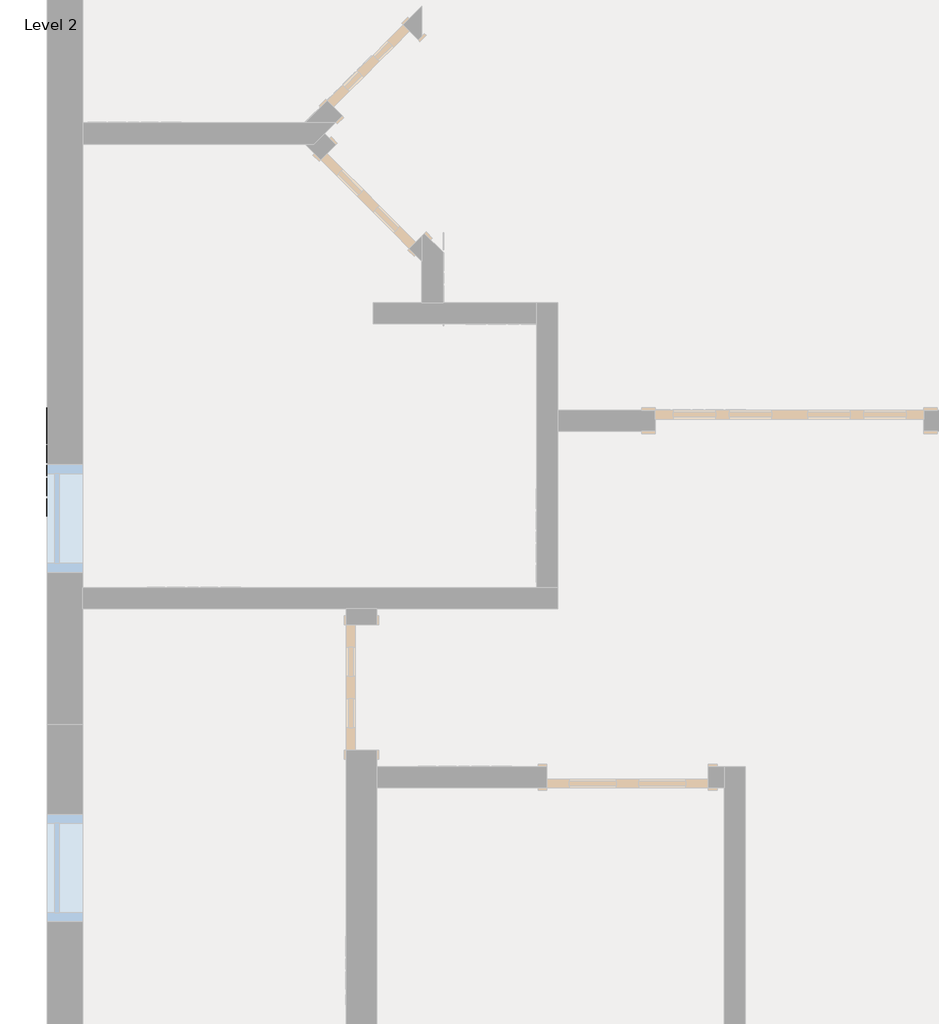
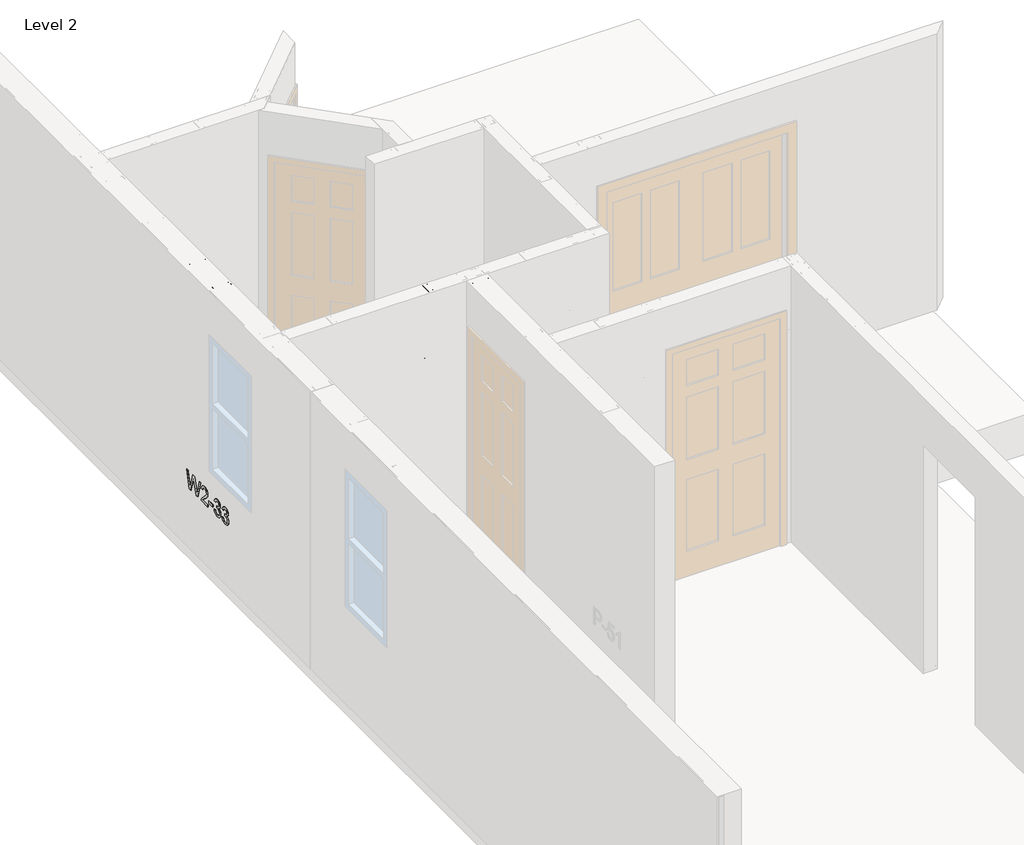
# One storey, part 25 of 46: 6 columns, 3 beams, 1 fastener.
"""IFC4 building model written with IfcOpenShell, lengths in millimetres."""

from ifc_helpers import new_model, si_unit, point, frame, origin, place, context, project, spatial, circle_curve, ellipse_curve, trimmed, transform, mapped, element, save
from ifc_brep_helpers import plane_surface, extruded_surface, advanced_brep
from components import beam_350nf150_33_c7d518e1, beam_550nf150_33_23c28c1d, beam_550nf150_43_6e52a138, panellabel_b0f0797e

model = new_model("IFC4")

# Units and contexts
model_context = context("Model", 3, world=origin())
ifc_project = project(units=[si_unit("LENGTHUNIT", "METRE", prefix="MILLI")], contexts=[model_context])

# Site, building, storey
site = spatial("IfcSite", under=ifc_project)
building = spatial("IfcBuilding", under=site)
storey = spatial("IfcBuildingStorey", under=building, Name="Level 2", Elevation=3060.7)

# Beams
placement = place(None, origin())
beam_350nf150_33_shape = beam_350nf150_33_c7d518e1(model_context)
element("IfcBeam", 1, ObjectType="BIMSF-SSMA-S : 350NF150-33", at=placement, inside=storey, context=model_context, shape_type="MappedRepresentation", body=[
    mapped(beam_350nf150_33_shape, transform((-13820.9038349, 8626.602221, 3076.575), x_axis=(1.0000000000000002, 0.0, 0.0), y_axis=(0.0, 0.0, -1.0000000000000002), z_axis=(0.0, 1.0000000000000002, 0.0))),
])
beam_550nf150_33_shape = beam_550nf150_33_23c28c1d(model_context)
element("IfcBeam", 2, ObjectType="BIMSF-SSMA-S : 550NF150-33", at=placement, inside=storey, context=model_context, shape_type="MappedRepresentation", body=[
    mapped(beam_550nf150_33_shape, transform((-13527.2163349, 8528.970971, 3076.575), x_axis=(0.0, 1.0000000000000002, 0.0), y_axis=(0.0, 0.0, -1.0000000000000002), z_axis=(-1.0000000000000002, 0.0, 0.0))),
])
beam_550nf150_43_shape = beam_550nf150_43_6e52a138(model_context)
element("IfcBeam", 3, ObjectType="BIMSF-SSMA-S : 550NF150-43", at=placement, inside=storey, context=model_context, shape_type="MappedRepresentation", body=[
    mapped(beam_550nf150_43_shape, transform((-15194.0913349, 9077.6062273, 3905.25), x_axis=(0.0, 1.0, 0.0), y_axis=(0.0, 0.0, 1.0), z_axis=(1.0, 0.0, 0.0))),
])

# Columns
element("IfcColumn", 4, ObjectType="BIMSF-SSMA-S-Column : 350NF150-33", at=placement, inside=storey, context=model_context, shape_type="AdvancedBrep", body=[
    advanced_brep(
    [(-13924.0913349, 8582.152221, 3061.5929687), (-13924.0913349, 8671.052221, 3061.5929687), (-13885.9913349, 8671.052221, 3061.5929687), (-13885.9913349, 8665.3947052, 3061.5929687), (-13886.8736507, 8665.3947052, 3061.5929687), (-13886.8736507, 8670.1699052, 3061.5929687), (-13923.2090191, 8670.1699052, 3061.5929687), (-13923.2090191, 8583.0345367, 3061.5929687), (-13886.8736507, 8583.0345367, 3061.5929687), (-13886.8736507, 8587.8097367, 3061.5929687), (-13885.9913349, 8587.8097367, 3061.5929687), (-13885.9913349, 8582.152221, 3061.5929687), (-13924.0913349, 8582.152221, 5523.6070313), (-13924.0913349, 8671.052221, 5523.6070313), (-13924.0913349, 8639.302221, 3671.1929688), (-13924.0913349, 8613.902221, 3671.1929688), (-13924.0913349, 8639.302221, 4890.3929687), (-13924.0913349, 8613.902221, 4890.3929687), (-13885.9913349, 8671.052221, 5523.6070313), (-13885.9913349, 8665.3947052, 5523.6070313), (-13886.8736507, 8665.3947052, 5523.6070313), (-13886.8736507, 8670.1699052, 5523.6070313), (-13923.2090191, 8670.1699052, 5523.6070313), (-13923.2090191, 8583.0345367, 5523.6070313), (-13923.2090191, 8613.902221, 3671.1929688), (-13923.2090191, 8639.302221, 3671.1929688), (-13923.2090191, 8613.902221, 4890.3929687), (-13923.2090191, 8639.302221, 4890.3929687), (-13886.8736507, 8583.0345367, 5523.6070313), (-13886.8736507, 8587.8097367, 5523.6070313), (-13885.9913349, 8587.8097367, 5523.6070313), (-13885.9913349, 8582.152221, 5523.6070313)],
    [
        (0, 1),
        (1, 2),
        (2, 3),
        (3, 4),
        (4, 5),
        (5, 6),
        (6, 7),
        (7, 8),
        (8, 9),
        (9, 10),
        (10, 11),
        (11, 0),
        (0, 12),
        (12, 13),
        (13, 1),
        (14, 15, circle_curve(frame((-13924.0913349, 8626.602221, 3671.1929687), z_axis=(1.0, 0.0, 0.0), x_axis=(0.0, 1.0, 0.0)), 12.7)),
        (15, 14, circle_curve(frame((-13924.0913349, 8626.602221, 3671.1929687), z_axis=(1.0, 0.0, 0.0), x_axis=(0.0, 1.0, 0.0)), 12.7)),
        (16, 17, circle_curve(frame((-13924.0913349, 8626.602221, 4890.3929687), z_axis=(1.0, 0.0, 0.0), x_axis=(0.0, 1.0, 0.0)), 12.7)),
        (17, 16, circle_curve(frame((-13924.0913349, 8626.602221, 4890.3929687), z_axis=(1.0, 0.0, 0.0), x_axis=(0.0, 1.0, 0.0)), 12.7)),
        (13, 18),
        (18, 2),
        (18, 19),
        (19, 3),
        (19, 20),
        (20, 4),
        (20, 21),
        (21, 5),
        (21, 22),
        (22, 6),
        (22, 23),
        (23, 7),
        (24, 25, circle_curve(frame((-13923.2090191, 8626.602221, 3671.1929688), z_axis=(-1.0, 0.0, 0.0), x_axis=(0.0, 1.0, 0.0)), 12.7)),
        (25, 24, circle_curve(frame((-13923.2090191, 8626.602221, 3671.1929688), z_axis=(-1.0, 0.0, 0.0), x_axis=(0.0, 1.0, 0.0)), 12.7)),
        (26, 27, circle_curve(frame((-13923.2090191, 8626.602221, 4890.3929687), z_axis=(-1.0, 0.0, 0.0), x_axis=(0.0, 1.0, 0.0)), 12.7)),
        (27, 26, circle_curve(frame((-13923.2090191, 8626.602221, 4890.3929687), z_axis=(-1.0, 0.0, 0.0), x_axis=(0.0, 1.0, 0.0)), 12.7)),
        (23, 28),
        (28, 8),
        (28, 29),
        (29, 9),
        (29, 30),
        (30, 10),
        (30, 31),
        (31, 11),
        (31, 12),
        (24, 15),
        (14, 25),
        (26, 17),
        (16, 27),
    ],
    [
        plane_surface(frame((-13924.0913349, 8582.152221, 3061.5929687), z_axis=(0.0, 0.0, -1.0), x_axis=(-1.0, 0.0, 0.0))),
        plane_surface(frame((-13924.0913349, 8671.052221, 5523.6070313), z_axis=(-1.0, 0.0, 0.0), x_axis=(0.0, 0.0, -1.0))),
        plane_surface(frame((-13885.9913349, 8671.052221, 5523.6070313), z_axis=(0.0, 1.0, 0.0), x_axis=(0.0, 0.0, -1.0))),
        plane_surface(frame((-13885.9913349, 8665.3947052, 5523.6070313), z_axis=(1.0, 0.0, 0.0), x_axis=(0.0, 0.0, -1.0))),
        plane_surface(frame((-13886.8736507, 8665.3947052, 5523.6070313), z_axis=(0.0, -1.0, 0.0), x_axis=(0.0, 0.0, -1.0))),
        plane_surface(frame((-13886.8736507, 8670.1699052, 5523.6070313), z_axis=(-1.0, 0.0, 0.0), x_axis=(0.0, 0.0, -1.0))),
        plane_surface(frame((-13923.2090191, 8670.1699052, 5523.6070313), z_axis=(0.0, -1.0, 0.0), x_axis=(0.0, 0.0, -1.0))),
        plane_surface(frame((-13923.2090191, 8583.0345367, 5523.6070313), z_axis=(1.0, 0.0, 0.0), x_axis=(0.0, 0.0, -1.0))),
        plane_surface(frame((-13886.8736507, 8583.0345367, 5523.6070313), z_axis=(0.0, 1.0, 0.0), x_axis=(0.0, 0.0, -1.0))),
        plane_surface(frame((-13886.8736507, 8587.8097367, 5523.6070313), z_axis=(-1.0, 0.0, 0.0), x_axis=(0.0, 0.0, -1.0))),
        plane_surface(frame((-13885.9913349, 8587.8097367, 5523.6070313), z_axis=(0.0, 1.0, 0.0), x_axis=(0.0, 0.0, -1.0))),
        plane_surface(frame((-13885.9913349, 8582.152221, 5523.6070313), z_axis=(1.0, 0.0, 0.0), x_axis=(0.0, 0.0, -1.0))),
        plane_surface(frame((-13924.0913349, 8582.152221, 5523.6070313), z_axis=(0.0, -1.0, 0.0), x_axis=(0.0, 0.0, -1.0))),
        plane_surface(frame((-13924.0913349, 8582.152221, 5523.6070313), z_axis=(0.0, 0.0, 1.0), x_axis=(1.0, 0.0, 0.0))),
        extruded_surface(trimmed(ellipse_curve(frame((-11443.0272724, 8626.602221, 3671.1929688), z_axis=(-1.0, 0.0, 0.0), x_axis=(0.0, 1.0, 0.0)), 12.7, 12.7), [point((-11443.0272724, 8613.902221, 3671.1929688))], [point((-11443.0272724, 8639.302221, 3671.1929688))], True, "CARTESIAN"), (4924.028125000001, 0.0, 0.0), 4924.028125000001),
        extruded_surface(trimmed(ellipse_curve(frame((-11443.0272724, 8626.602221, 3671.1929688), z_axis=(-1.0, 0.0, 0.0), x_axis=(0.0, 1.0, 0.0)), 12.7, 12.7), [point((-11443.0272724, 8639.302221, 3671.1929688))], [point((-11443.0272724, 8613.902221, 3671.1929688))], True, "CARTESIAN"), (4924.028125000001, 0.0, 0.0), 4924.028125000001),
        extruded_surface(trimmed(ellipse_curve(frame((-11443.0272724, 8626.602221, 4890.3929687), z_axis=(-1.0, 0.0, 0.0), x_axis=(0.0, 1.0, 0.0)), 12.7, 12.7), [point((-11443.0272724, 8613.902221, 4890.3929687))], [point((-11443.0272724, 8639.302221, 4890.3929687))], True, "CARTESIAN"), (4924.028125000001, 0.0, 0.0), 4924.028125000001),
        extruded_surface(trimmed(ellipse_curve(frame((-11443.0272724, 8626.602221, 4890.3929687), z_axis=(-1.0, 0.0, 0.0), x_axis=(0.0, 1.0, 0.0)), 12.7, 12.7), [point((-11443.0272724, 8639.302221, 4890.3929687))], [point((-11443.0272724, 8613.902221, 4890.3929687))], True, "CARTESIAN"), (4924.028125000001, 0.0, 0.0), 4924.028125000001),
    ],
    [
        (0, [[1, 2, 3, 4, 5, 6, 7, 8, 9, 10, 11, 12]]),
        (1, [[-1, 13, 14, 15], [16, 17], [18, 19]]),
        (2, [[-2, -15, 20, 21]]),
        (3, [[-3, -21, 22, 23]]),
        (4, [[-4, -23, 24, 25]]),
        (5, [[-5, -25, 26, 27]]),
        (6, [[-6, -27, 28, 29]]),
        (7, [[-7, -29, 30, 31], [32, 33], [34, 35]]),
        (8, [[-8, -31, 36, 37]]),
        (9, [[-9, -37, 38, 39]]),
        (10, [[-10, -39, 40, 41]]),
        (11, [[-11, -41, 42, 43]]),
        (12, [[-12, -43, 44, -13]]),
        (13, [[-14, -44, -42, -40, -38, -36, -30, -28, -26, -24, -22, -20]]),
        (14, [[45, -16, 46, -32]]),
        (15, [[-45, -33, -46, -17]]),
        (16, [[47, -18, 48, -34]]),
        (17, [[-47, -35, -48, -19]]),
    ],
),
])
element("IfcColumn", 5, ObjectType="BIMSF-SSMA-S-Column : 550NF150-33", at=placement, inside=storey, context=model_context, shape_type="AdvancedBrep", body=[
    advanced_brep(
    [(-13457.3663349, 8475.789721, 3061.5929687), (-13597.0663349, 8475.789721, 3061.5929687), (-13597.0663349, 8513.889721, 3061.5929687), (-13591.4088191, 8513.889721, 3061.5929687), (-13591.4088191, 8513.0074052, 3061.5929687), (-13596.1840191, 8513.0074052, 3061.5929687), (-13596.1840191, 8476.6720367, 3061.5929687), (-13458.2486507, 8476.6720367, 3061.5929687), (-13458.2486507, 8513.0074052, 3061.5929687), (-13463.0238507, 8513.0074052, 3061.5929687), (-13463.0238507, 8513.889721, 3061.5929687), (-13457.3663349, 8513.889721, 3061.5929687), (-13457.3663349, 8475.789721, 5523.6070313), (-13597.0663349, 8475.789721, 5523.6070313), (-13539.9163349, 8475.789721, 3671.1929688), (-13514.5163349, 8475.789721, 3671.1929687), (-13539.9163349, 8475.789721, 4890.3929688), (-13514.5163349, 8475.789721, 4890.3929687), (-13597.0663349, 8513.889721, 5523.6070313), (-13591.4088191, 8513.889721, 5523.6070313), (-13591.4088191, 8513.0074052, 5523.6070313), (-13596.1840191, 8513.0074052, 5523.6070313), (-13596.1840191, 8476.6720367, 5523.6070313), (-13458.2486507, 8476.6720367, 5523.6070313), (-13514.5163349, 8476.6720367, 3671.1929687), (-13539.9163349, 8476.6720367, 3671.1929688), (-13514.5163349, 8476.6720367, 4890.3929688), (-13539.9163349, 8476.6720367, 4890.3929688), (-13458.2486507, 8513.0074052, 5523.6070313), (-13463.0238507, 8513.0074052, 5523.6070313), (-13463.0238507, 8513.889721, 5523.6070313), (-13457.3663349, 8513.889721, 5523.6070313)],
    [
        (0, 1),
        (1, 2),
        (2, 3),
        (3, 4),
        (4, 5),
        (5, 6),
        (6, 7),
        (7, 8),
        (8, 9),
        (9, 10),
        (10, 11),
        (11, 0),
        (0, 12),
        (12, 13),
        (13, 1),
        (14, 15, circle_curve(frame((-13527.2163349, 8475.789721, 3671.1929687), z_axis=(0.0, 1.0, 0.0), x_axis=(-1.0, 0.0, 0.0)), 12.7)),
        (15, 14, circle_curve(frame((-13527.2163349, 8475.789721, 3671.1929688), z_axis=(0.0, 1.0, 0.0), x_axis=(-1.0, 0.0, 0.0)), 12.7)),
        (16, 17, circle_curve(frame((-13527.2163349, 8475.789721, 4890.3929687), z_axis=(0.0, 1.0, 0.0), x_axis=(-1.0, 0.0, 0.0)), 12.7)),
        (17, 16, circle_curve(frame((-13527.2163349, 8475.789721, 4890.3929687), z_axis=(0.0, 1.0, 0.0), x_axis=(-1.0, 0.0, 0.0)), 12.7)),
        (13, 18),
        (18, 2),
        (18, 19),
        (19, 3),
        (19, 20),
        (20, 4),
        (20, 21),
        (21, 5),
        (21, 22),
        (22, 6),
        (22, 23),
        (23, 7),
        (24, 25, circle_curve(frame((-13527.2163349, 8476.6720367, 3671.1929687), z_axis=(0.0, -1.0, 0.0), x_axis=(-1.0, 0.0, 0.0)), 12.7)),
        (25, 24, circle_curve(frame((-13527.2163349, 8476.6720367, 3671.1929688), z_axis=(0.0, -1.0, 0.0), x_axis=(-1.0, 0.0, 0.0)), 12.7)),
        (26, 27, circle_curve(frame((-13527.2163349, 8476.6720367, 4890.3929687), z_axis=(0.0, -1.0, 0.0), x_axis=(-1.0, 0.0, 0.0)), 12.7)),
        (27, 26, circle_curve(frame((-13527.2163349, 8476.6720367, 4890.3929687), z_axis=(0.0, -1.0, 0.0), x_axis=(-1.0, 0.0, 0.0)), 12.7)),
        (23, 28),
        (28, 8),
        (28, 29),
        (29, 9),
        (29, 30),
        (30, 10),
        (30, 31),
        (31, 11),
        (31, 12),
        (24, 15),
        (14, 25),
        (26, 17),
        (16, 27),
    ],
    [
        plane_surface(frame((-13457.3663349, 8475.789721, 3061.5929687), z_axis=(0.0, 0.0, -1.0), x_axis=(0.0, -1.0, 0.0))),
        plane_surface(frame((-13597.0663349, 8475.789721, 5523.6070313), z_axis=(0.0, -1.0, 0.0), x_axis=(0.0, 0.0, -1.0))),
        plane_surface(frame((-13597.0663349, 8513.889721, 5523.6070313), z_axis=(-1.0, 0.0, 0.0), x_axis=(0.0, 0.0, -1.0))),
        plane_surface(frame((-13591.4088191, 8513.889721, 5523.6070313), z_axis=(0.0, 1.0, 0.0), x_axis=(0.0, 0.0, -1.0))),
        plane_surface(frame((-13591.4088191, 8513.0074052, 5523.6070313), z_axis=(1.0, 0.0, 0.0), x_axis=(0.0, 0.0, -1.0))),
        plane_surface(frame((-13596.1840191, 8513.0074052, 5523.6070313), z_axis=(0.0, -1.0, 0.0), x_axis=(0.0, 0.0, -1.0))),
        plane_surface(frame((-13596.1840191, 8476.6720367, 5523.6070313), z_axis=(1.0, 0.0, 0.0), x_axis=(0.0, 0.0, -1.0))),
        plane_surface(frame((-13458.2486507, 8476.6720367, 5523.6070313), z_axis=(0.0, 1.0, 0.0), x_axis=(0.0, 0.0, -1.0))),
        plane_surface(frame((-13458.2486507, 8513.0074052, 5523.6070313), z_axis=(-1.0, 0.0, 0.0), x_axis=(0.0, 0.0, -1.0))),
        plane_surface(frame((-13463.0238507, 8513.0074052, 5523.6070313), z_axis=(0.0, -1.0, 0.0), x_axis=(0.0, 0.0, -1.0))),
        plane_surface(frame((-13463.0238507, 8513.889721, 5523.6070313), z_axis=(-1.0, 0.0, 0.0), x_axis=(0.0, 0.0, -1.0))),
        plane_surface(frame((-13457.3663349, 8513.889721, 5523.6070313), z_axis=(0.0, 1.0, 0.0), x_axis=(0.0, 0.0, -1.0))),
        plane_surface(frame((-13457.3663349, 8475.789721, 5523.6070313), z_axis=(1.0, 0.0, 0.0), x_axis=(0.0, 0.0, -1.0))),
        plane_surface(frame((-13457.3663349, 8475.789721, 5523.6070313), z_axis=(0.0, 0.0, 1.0), x_axis=(0.0, 1.0, 0.0))),
        extruded_surface(trimmed(ellipse_curve(frame((-13527.2163349, 10956.8537835, 3671.1929688), z_axis=(0.0, -1.0, 0.0), x_axis=(-1.0, 0.0, 0.0)), 12.7, 12.7), [point((-13514.5163349, 10956.8537835, 3671.1929688))], [point((-13539.9163349, 10956.8537835, 3671.1929688))], True, "CARTESIAN"), (0.0, 4924.028124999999, 0.0), 4924.028124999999),
        extruded_surface(trimmed(ellipse_curve(frame((-13527.2163349, 10956.8537835, 3671.1929688), z_axis=(0.0, -1.0, 0.0), x_axis=(-1.0, 0.0, 0.0)), 12.7, 12.7), [point((-13539.9163349, 10956.8537835, 3671.1929688))], [point((-13514.5163349, 10956.8537835, 3671.1929688))], True, "CARTESIAN"), (0.0, 4924.028124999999, 0.0), 4924.028124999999),
        extruded_surface(trimmed(ellipse_curve(frame((-13527.2163349, 10956.8537835, 4890.3929687), z_axis=(0.0, -1.0, 0.0), x_axis=(-1.0, 0.0, 0.0)), 12.7, 12.7), [point((-13514.5163349, 10956.8537835, 4890.3929687))], [point((-13539.9163349, 10956.8537835, 4890.3929687))], True, "CARTESIAN"), (0.0, 4924.028124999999, 0.0), 4924.028124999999),
        extruded_surface(trimmed(ellipse_curve(frame((-13527.2163349, 10956.8537835, 4890.3929687), z_axis=(0.0, -1.0, 0.0), x_axis=(-1.0, 0.0, 0.0)), 12.7, 12.7), [point((-13539.9163349, 10956.8537835, 4890.3929687))], [point((-13514.5163349, 10956.8537835, 4890.3929687))], True, "CARTESIAN"), (0.0, 4924.028124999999, 0.0), 4924.028124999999),
    ],
    [
        (0, [[1, 2, 3, 4, 5, 6, 7, 8, 9, 10, 11, 12]]),
        (1, [[-1, 13, 14, 15], [16, 17], [18, 19]]),
        (2, [[-2, -15, 20, 21]]),
        (3, [[-3, -21, 22, 23]]),
        (4, [[-4, -23, 24, 25]]),
        (5, [[-5, -25, 26, 27]]),
        (6, [[-6, -27, 28, 29]]),
        (7, [[-7, -29, 30, 31], [32, 33], [34, 35]]),
        (8, [[-8, -31, 36, 37]]),
        (9, [[-9, -37, 38, 39]]),
        (10, [[-10, -39, 40, 41]]),
        (11, [[-11, -41, 42, 43]]),
        (12, [[-12, -43, 44, -13]]),
        (13, [[-14, -44, -42, -40, -38, -36, -30, -28, -26, -24, -22, -20]]),
        (14, [[45, -16, 46, -32]]),
        (15, [[-45, -33, -46, -17]]),
        (16, [[47, -18, 48, -34]]),
        (17, [[-47, -35, -48, -19]]),
    ],
),
])
element("IfcColumn", 6, ObjectType="BIMSF-SSMA-S-Column : 550NF150-33", at=placement, inside=storey, context=model_context, shape_type="AdvancedBrep", body=[
    advanced_brep(
    [(-13597.0663349, 8582.152221, 3061.5929687), (-13457.3663349, 8582.152221, 3061.5929687), (-13457.3663349, 8544.052221, 3061.5929687), (-13463.0238507, 8544.052221, 3061.5929687), (-13463.0238507, 8544.9345367, 3061.5929687), (-13458.2486507, 8544.9345367, 3061.5929687), (-13458.2486507, 8581.2699052, 3061.5929687), (-13596.1840191, 8581.2699052, 3061.5929687), (-13596.1840191, 8544.9345367, 3061.5929687), (-13591.4088191, 8544.9345367, 3061.5929687), (-13591.4088191, 8544.052221, 3061.5929687), (-13597.0663349, 8544.052221, 3061.5929687), (-13597.0663349, 8582.152221, 5523.6070313), (-13457.3663349, 8582.152221, 5523.6070313), (-13514.5163349, 8582.152221, 3671.1929687), (-13539.9163349, 8582.152221, 3671.1929687), (-13514.5163349, 8582.152221, 4890.3929687), (-13539.9163349, 8582.152221, 4890.3929687), (-13457.3663349, 8544.052221, 5523.6070313), (-13463.0238507, 8544.052221, 5523.6070313), (-13463.0238507, 8544.9345367, 5523.6070313), (-13458.2486507, 8544.9345367, 5523.6070313), (-13458.2486507, 8581.2699052, 5523.6070313), (-13596.1840191, 8581.2699052, 5523.6070313), (-13539.9163349, 8581.2699052, 3671.1929688), (-13514.5163349, 8581.2699052, 3671.1929688), (-13539.9163349, 8581.2699052, 4890.3929687), (-13514.5163349, 8581.2699052, 4890.3929687), (-13596.1840191, 8544.9345367, 5523.6070313), (-13591.4088191, 8544.9345367, 5523.6070313), (-13591.4088191, 8544.052221, 5523.6070313), (-13597.0663349, 8544.052221, 5523.6070313)],
    [
        (0, 1),
        (1, 2),
        (2, 3),
        (3, 4),
        (4, 5),
        (5, 6),
        (6, 7),
        (7, 8),
        (8, 9),
        (9, 10),
        (10, 11),
        (11, 0),
        (0, 12),
        (12, 13),
        (13, 1),
        (14, 15, circle_curve(frame((-13527.2163349, 8582.152221, 3671.1929688), z_axis=(0.0, -1.0, 0.0), x_axis=(1.0, 0.0, 0.0)), 12.7)),
        (15, 14, circle_curve(frame((-13527.2163349, 8582.152221, 3671.1929688), z_axis=(0.0, -1.0, 0.0), x_axis=(1.0, 0.0, 0.0)), 12.7)),
        (16, 17, circle_curve(frame((-13527.2163349, 8582.152221, 4890.3929687), z_axis=(0.0, -1.0, 0.0), x_axis=(1.0, 0.0, 0.0)), 12.7)),
        (17, 16, circle_curve(frame((-13527.2163349, 8582.152221, 4890.3929687), z_axis=(0.0, -1.0, 0.0), x_axis=(1.0, 0.0, 0.0)), 12.7)),
        (13, 18),
        (18, 2),
        (18, 19),
        (19, 3),
        (19, 20),
        (20, 4),
        (20, 21),
        (21, 5),
        (21, 22),
        (22, 6),
        (22, 23),
        (23, 7),
        (24, 25, circle_curve(frame((-13527.2163349, 8581.2699052, 3671.1929687), z_axis=(0.0, 1.0, 0.0), x_axis=(1.0, 0.0, 0.0)), 12.7)),
        (25, 24, circle_curve(frame((-13527.2163349, 8581.2699052, 3671.1929687), z_axis=(0.0, 1.0, 0.0), x_axis=(1.0, 0.0, 0.0)), 12.7)),
        (26, 27, circle_curve(frame((-13527.2163349, 8581.2699052, 4890.3929687), z_axis=(0.0, 1.0, 0.0), x_axis=(1.0, 0.0, 0.0)), 12.7)),
        (27, 26, circle_curve(frame((-13527.2163349, 8581.2699052, 4890.3929687), z_axis=(0.0, 1.0, 0.0), x_axis=(1.0, 0.0, 0.0)), 12.7)),
        (23, 28),
        (28, 8),
        (28, 29),
        (29, 9),
        (29, 30),
        (30, 10),
        (30, 31),
        (31, 11),
        (31, 12),
        (24, 15),
        (14, 25),
        (26, 17),
        (16, 27),
    ],
    [
        plane_surface(frame((-13597.0663349, 8582.152221, 3061.5929687), z_axis=(0.0, 0.0, -1.0), x_axis=(0.0, 1.0, 0.0))),
        plane_surface(frame((-13457.3663349, 8582.152221, 5523.6070313), z_axis=(0.0, 1.0, 0.0), x_axis=(0.0, 0.0, -1.0))),
        plane_surface(frame((-13457.3663349, 8544.052221, 5523.6070313), z_axis=(1.0, 0.0, 0.0), x_axis=(0.0, 0.0, -1.0))),
        plane_surface(frame((-13463.0238507, 8544.052221, 5523.6070313), z_axis=(0.0, -1.0, 0.0), x_axis=(0.0, 0.0, -1.0))),
        plane_surface(frame((-13463.0238507, 8544.9345367, 5523.6070313), z_axis=(-1.0, 0.0, 0.0), x_axis=(0.0, 0.0, -1.0))),
        plane_surface(frame((-13458.2486507, 8544.9345367, 5523.6070313), z_axis=(0.0, 1.0, 0.0), x_axis=(0.0, 0.0, -1.0))),
        plane_surface(frame((-13458.2486507, 8581.2699052, 5523.6070313), z_axis=(-1.0, 0.0, 0.0), x_axis=(0.0, 0.0, -1.0))),
        plane_surface(frame((-13596.1840191, 8581.2699052, 5523.6070313), z_axis=(0.0, -1.0, 0.0), x_axis=(0.0, 0.0, -1.0))),
        plane_surface(frame((-13596.1840191, 8544.9345367, 5523.6070313), z_axis=(1.0, 0.0, 0.0), x_axis=(0.0, 0.0, -1.0))),
        plane_surface(frame((-13591.4088191, 8544.9345367, 5523.6070313), z_axis=(0.0, 1.0, 0.0), x_axis=(0.0, 0.0, -1.0))),
        plane_surface(frame((-13591.4088191, 8544.052221, 5523.6070313), z_axis=(1.0, 0.0, 0.0), x_axis=(0.0, 0.0, -1.0))),
        plane_surface(frame((-13597.0663349, 8544.052221, 5523.6070313), z_axis=(0.0, -1.0, 0.0), x_axis=(0.0, 0.0, -1.0))),
        plane_surface(frame((-13597.0663349, 8582.152221, 5523.6070313), z_axis=(-1.0, 0.0, 0.0), x_axis=(0.0, 0.0, -1.0))),
        plane_surface(frame((-13597.0663349, 8582.152221, 5523.6070313), z_axis=(0.0, 0.0, 1.0), x_axis=(0.0, -1.0, 0.0))),
        extruded_surface(trimmed(ellipse_curve(frame((-13527.2163349, 6101.0881585, 3671.1929688), z_axis=(0.0, 1.0, 0.0), x_axis=(1.0, 0.0, 0.0)), 12.7, 12.7), [point((-13539.9163349, 6101.0881585, 3671.1929688))], [point((-13514.5163349, 6101.0881585, 3671.1929688))], True, "CARTESIAN"), (0.0, -4924.028125, 0.0), 4924.028125),
        extruded_surface(trimmed(ellipse_curve(frame((-13527.2163349, 6101.0881585, 3671.1929688), z_axis=(0.0, 1.0, 0.0), x_axis=(1.0, 0.0, 0.0)), 12.7, 12.7), [point((-13514.5163349, 6101.0881585, 3671.1929688))], [point((-13539.9163349, 6101.0881585, 3671.1929688))], True, "CARTESIAN"), (0.0, -4924.028125, 0.0), 4924.028125),
        extruded_surface(trimmed(ellipse_curve(frame((-13527.2163349, 6101.0881585, 4890.3929687), z_axis=(0.0, 1.0, 0.0), x_axis=(1.0, 0.0, 0.0)), 12.7, 12.7), [point((-13539.9163349, 6101.0881585, 4890.3929687))], [point((-13514.5163349, 6101.0881585, 4890.3929687))], True, "CARTESIAN"), (0.0, -4924.028125, 0.0), 4924.028125),
        extruded_surface(trimmed(ellipse_curve(frame((-13527.2163349, 6101.0881585, 4890.3929687), z_axis=(0.0, 1.0, 0.0), x_axis=(1.0, 0.0, 0.0)), 12.7, 12.7), [point((-13514.5163349, 6101.0881585, 4890.3929687))], [point((-13539.9163349, 6101.0881585, 4890.3929687))], True, "CARTESIAN"), (0.0, -4924.028125, 0.0), 4924.028125),
    ],
    [
        (0, [[1, 2, 3, 4, 5, 6, 7, 8, 9, 10, 11, 12]]),
        (1, [[-1, 13, 14, 15], [16, 17], [18, 19]]),
        (2, [[-2, -15, 20, 21]]),
        (3, [[-3, -21, 22, 23]]),
        (4, [[-4, -23, 24, 25]]),
        (5, [[-5, -25, 26, 27]]),
        (6, [[-6, -27, 28, 29]]),
        (7, [[-7, -29, 30, 31], [32, 33], [34, 35]]),
        (8, [[-8, -31, 36, 37]]),
        (9, [[-9, -37, 38, 39]]),
        (10, [[-10, -39, 40, 41]]),
        (11, [[-11, -41, 42, 43]]),
        (12, [[-12, -43, 44, -13]]),
        (13, [[-14, -44, -42, -40, -38, -36, -30, -28, -26, -24, -22, -20]]),
        (14, [[45, -16, 46, -32]]),
        (15, [[-45, -33, -46, -17]]),
        (16, [[47, -18, 48, -34]]),
        (17, [[-47, -35, -48, -19]]),
    ],
),
])
element("IfcColumn", 7, ObjectType="BIMSF-SSMA-S-Column : 550NF150-43", at=placement, inside=storey, context=model_context, shape_type="AdvancedBrep", body=[
    advanced_brep(
    [(-15124.2413349, 9382.4062273, 3061.5929687), (-15263.9413349, 9382.4062273, 3061.5929687), (-15263.9413349, 9420.5062273, 3061.5929687), (-15258.0164507, 9420.5062273, 3061.5929687), (-15258.0164507, 9419.3565431, 3061.5929687), (-15262.7916507, 9419.3565431, 3061.5929687), (-15262.7916507, 9383.5559115, 3061.5929687), (-15125.3910191, 9383.5559115, 3061.5929687), (-15125.3910191, 9419.3565431, 3061.5929687), (-15130.1662191, 9419.3565431, 3061.5929687), (-15130.1662191, 9420.5062273, 3061.5929687), (-15124.2413349, 9420.5062273, 3061.5929687), (-15124.2413349, 9382.4062273, 5523.6070313), (-15263.9413349, 9382.4062273, 5523.6070313), (-15206.7913349, 9382.4062273, 3671.1929688), (-15181.3913349, 9382.4062273, 3671.1929688), (-15206.7913349, 9382.4062273, 4890.3929688), (-15181.3913349, 9382.4062273, 4890.3929687), (-15263.9413349, 9420.5062273, 5523.6070313), (-15258.0164507, 9420.5062273, 5523.6070313), (-15258.0164507, 9419.3565431, 5523.6070313), (-15262.7916507, 9419.3565431, 5523.6070313), (-15262.7916507, 9383.5559115, 5523.6070313), (-15125.3910191, 9383.5559115, 5523.6070313), (-15181.3913349, 9383.5559115, 3671.1929688), (-15206.7913349, 9383.5559115, 3671.1929688), (-15181.3913349, 9383.5559115, 4890.3929688), (-15206.7913349, 9383.5559115, 4890.3929688), (-15125.3910191, 9419.3565431, 5523.6070313), (-15130.1662191, 9419.3565431, 5523.6070313), (-15130.1662191, 9420.5062273, 5523.6070313), (-15124.2413349, 9420.5062273, 5523.6070313)],
    [
        (0, 1),
        (1, 2),
        (2, 3),
        (3, 4),
        (4, 5),
        (5, 6),
        (6, 7),
        (7, 8),
        (8, 9),
        (9, 10),
        (10, 11),
        (11, 0),
        (0, 12),
        (12, 13),
        (13, 1),
        (14, 15, circle_curve(frame((-15194.0913349, 9382.4062273, 3671.1929688), z_axis=(0.0, 1.0, 0.0), x_axis=(-1.0, 0.0, 0.0)), 12.7)),
        (15, 14, circle_curve(frame((-15194.0913349, 9382.4062273, 3671.1929688), z_axis=(0.0, 1.0, 0.0), x_axis=(-1.0, 0.0, 0.0)), 12.7)),
        (16, 17, circle_curve(frame((-15194.0913349, 9382.4062273, 4890.3929687), z_axis=(0.0, 1.0, 0.0), x_axis=(-1.0, 0.0, 0.0)), 12.7)),
        (17, 16, circle_curve(frame((-15194.0913349, 9382.4062273, 4890.3929687), z_axis=(0.0, 1.0, 0.0), x_axis=(-1.0, 0.0, 0.0)), 12.7)),
        (13, 18),
        (18, 2),
        (18, 19),
        (19, 3),
        (19, 20),
        (20, 4),
        (20, 21),
        (21, 5),
        (21, 22),
        (22, 6),
        (22, 23),
        (23, 7),
        (24, 25, circle_curve(frame((-15194.0913349, 9383.5559115, 3671.1929688), z_axis=(0.0, -1.0, 0.0), x_axis=(-1.0, 0.0, 0.0)), 12.7)),
        (25, 24, circle_curve(frame((-15194.0913349, 9383.5559115, 3671.1929687), z_axis=(0.0, -1.0, 0.0), x_axis=(-1.0, 0.0, 0.0)), 12.7)),
        (26, 27, circle_curve(frame((-15194.0913349, 9383.5559115, 4890.3929687), z_axis=(0.0, -1.0, 0.0), x_axis=(-1.0, 0.0, 0.0)), 12.7)),
        (27, 26, circle_curve(frame((-15194.0913349, 9383.5559115, 4890.3929687), z_axis=(0.0, -1.0, 0.0), x_axis=(-1.0, 0.0, 0.0)), 12.7)),
        (23, 28),
        (28, 8),
        (28, 29),
        (29, 9),
        (29, 30),
        (30, 10),
        (30, 31),
        (31, 11),
        (31, 12),
        (24, 15),
        (14, 25),
        (26, 17),
        (16, 27),
    ],
    [
        plane_surface(frame((-15124.2413349, 9382.4062273, 3061.5929687), z_axis=(0.0, 0.0, -1.0), x_axis=(0.0, -1.0, 0.0))),
        plane_surface(frame((-15263.9413349, 9382.4062273, 5523.6070313), z_axis=(0.0, -1.0, 0.0), x_axis=(0.0, 0.0, -1.0))),
        plane_surface(frame((-15263.9413349, 9420.5062273, 5523.6070313), z_axis=(-1.0, 0.0, 0.0), x_axis=(0.0, 0.0, -1.0))),
        plane_surface(frame((-15258.0164507, 9420.5062273, 5523.6070313), z_axis=(0.0, 1.0, 0.0), x_axis=(0.0, 0.0, -1.0))),
        plane_surface(frame((-15258.0164507, 9419.3565431, 5523.6070313), z_axis=(1.0, 0.0, 0.0), x_axis=(0.0, 0.0, -1.0))),
        plane_surface(frame((-15262.7916507, 9419.3565431, 5523.6070313), z_axis=(0.0, -1.0, 0.0), x_axis=(0.0, 0.0, -1.0))),
        plane_surface(frame((-15262.7916507, 9383.5559115, 5523.6070313), z_axis=(1.0, 0.0, 0.0), x_axis=(0.0, 0.0, -1.0))),
        plane_surface(frame((-15125.3910191, 9383.5559115, 5523.6070313), z_axis=(0.0, 1.0, 0.0), x_axis=(0.0, 0.0, -1.0))),
        plane_surface(frame((-15125.3910191, 9419.3565431, 5523.6070313), z_axis=(-1.0, 0.0, 0.0), x_axis=(0.0, 0.0, -1.0))),
        plane_surface(frame((-15130.1662191, 9419.3565431, 5523.6070313), z_axis=(0.0, -1.0, 0.0), x_axis=(0.0, 0.0, -1.0))),
        plane_surface(frame((-15130.1662191, 9420.5062273, 5523.6070313), z_axis=(-1.0, 0.0, 0.0), x_axis=(0.0, 0.0, -1.0))),
        plane_surface(frame((-15124.2413349, 9420.5062273, 5523.6070313), z_axis=(0.0, 1.0, 0.0), x_axis=(0.0, 0.0, -1.0))),
        plane_surface(frame((-15124.2413349, 9382.4062273, 5523.6070313), z_axis=(1.0, 0.0, 0.0), x_axis=(0.0, 0.0, -1.0))),
        plane_surface(frame((-15124.2413349, 9382.4062273, 5523.6070313), z_axis=(0.0, 0.0, 1.0), x_axis=(0.0, 1.0, 0.0))),
        extruded_surface(trimmed(ellipse_curve(frame((-15194.0913349, 11863.4702898, 3671.1929688), z_axis=(0.0, -1.0, 0.0), x_axis=(-1.0, 0.0, 0.0)), 12.7, 12.7), [point((-15181.3913349, 11863.4702898, 3671.1929688))], [point((-15206.7913349, 11863.4702898, 3671.1929688))], True, "CARTESIAN"), (0.0, 4924.028125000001, 0.0), 4924.028125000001),
        extruded_surface(trimmed(ellipse_curve(frame((-15194.0913349, 11863.4702898, 3671.1929688), z_axis=(0.0, -1.0, 0.0), x_axis=(-1.0, 0.0, 0.0)), 12.7, 12.7), [point((-15206.7913349, 11863.4702898, 3671.1929688))], [point((-15181.3913349, 11863.4702898, 3671.1929688))], True, "CARTESIAN"), (0.0, 4924.028125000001, 0.0), 4924.028125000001),
        extruded_surface(trimmed(ellipse_curve(frame((-15194.0913349, 11863.4702898, 4890.3929687), z_axis=(0.0, -1.0, 0.0), x_axis=(-1.0, 0.0, 0.0)), 12.7, 12.7), [point((-15181.3913349, 11863.4702898, 4890.3929687))], [point((-15206.7913349, 11863.4702898, 4890.3929687))], True, "CARTESIAN"), (0.0, 4924.028125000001, 0.0), 4924.028125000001),
        extruded_surface(trimmed(ellipse_curve(frame((-15194.0913349, 11863.4702898, 4890.3929687), z_axis=(0.0, -1.0, 0.0), x_axis=(-1.0, 0.0, 0.0)), 12.7, 12.7), [point((-15206.7913349, 11863.4702898, 4890.3929687))], [point((-15181.3913349, 11863.4702898, 4890.3929687))], True, "CARTESIAN"), (0.0, 4924.028125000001, 0.0), 4924.028125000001),
    ],
    [
        (0, [[1, 2, 3, 4, 5, 6, 7, 8, 9, 10, 11, 12]]),
        (1, [[-1, 13, 14, 15], [16, 17], [18, 19]]),
        (2, [[-2, -15, 20, 21]]),
        (3, [[-3, -21, 22, 23]]),
        (4, [[-4, -23, 24, 25]]),
        (5, [[-5, -25, 26, 27]]),
        (6, [[-6, -27, 28, 29]]),
        (7, [[-7, -29, 30, 31], [32, 33], [34, 35]]),
        (8, [[-8, -31, 36, 37]]),
        (9, [[-9, -37, 38, 39]]),
        (10, [[-10, -39, 40, 41]]),
        (11, [[-11, -41, 42, 43]]),
        (12, [[-12, -43, 44, -13]]),
        (13, [[-14, -44, -42, -40, -38, -36, -30, -28, -26, -24, -22, -20]]),
        (14, [[45, -16, 46, -32]]),
        (15, [[-45, -33, -46, -17]]),
        (16, [[47, -18, 48, -34]]),
        (17, [[-47, -35, -48, -19]]),
    ],
),
])
element("IfcColumn", 8, ObjectType="BIMSF-SSMA-S-Column : 550NF150-43", at=placement, inside=storey, context=model_context, shape_type="AdvancedBrep", body=[
    advanced_brep(
    [(-15124.2413349, 9107.8627774, 3061.5929687), (-15263.9413349, 9107.8627774, 3061.5929687), (-15263.9413349, 9145.9627774, 3061.5929687), (-15258.0164507, 9145.9627774, 3061.5929687), (-15258.0164507, 9144.8130931, 3061.5929687), (-15262.7916507, 9144.8130931, 3061.5929687), (-15262.7916507, 9109.0124616, 3061.5929687), (-15125.3910191, 9109.0124616, 3061.5929687), (-15125.3910191, 9144.8130931, 3061.5929687), (-15130.1662191, 9144.8130931, 3061.5929687), (-15130.1662191, 9145.9627774, 3061.5929687), (-15124.2413349, 9145.9627774, 3061.5929687), (-15124.2413349, 9107.8627774, 3920.2320313), (-15263.9413349, 9107.8627774, 3920.2320313), (-15206.7913349, 9107.8627774, 3366.3929687), (-15181.3913349, 9107.8627774, 3366.3929687), (-15263.9413349, 9145.9627774, 3920.2320313), (-15258.0164507, 9145.9627774, 3920.2320313), (-15258.0164507, 9144.8130931, 3920.2320313), (-15262.7916507, 9144.8130931, 3920.2320313), (-15262.7916507, 9109.0124616, 3920.2320313), (-15125.3910191, 9109.0124616, 3920.2320313), (-15181.3913349, 9109.0124616, 3366.3929688), (-15206.7913349, 9109.0124616, 3366.3929688), (-15125.3910191, 9144.8130931, 3920.2320313), (-15130.1662191, 9144.8130931, 3920.2320313), (-15130.1662191, 9145.9627774, 3920.2320313), (-15124.2413349, 9145.9627774, 3920.2320313)],
    [
        (0, 1),
        (1, 2),
        (2, 3),
        (3, 4),
        (4, 5),
        (5, 6),
        (6, 7),
        (7, 8),
        (8, 9),
        (9, 10),
        (10, 11),
        (11, 0),
        (0, 12),
        (12, 13),
        (13, 1),
        (14, 15, circle_curve(frame((-15194.0913349, 9107.8627774, 3366.3929687), z_axis=(0.0, 1.0, 0.0), x_axis=(-1.0, 0.0, 0.0)), 12.7)),
        (15, 14, circle_curve(frame((-15194.0913349, 9107.8627774, 3366.3929687), z_axis=(0.0, 1.0, 0.0), x_axis=(-1.0, 0.0, 0.0)), 12.7)),
        (13, 16),
        (16, 2),
        (16, 17),
        (17, 3),
        (17, 18),
        (18, 4),
        (18, 19),
        (19, 5),
        (19, 20),
        (20, 6),
        (20, 21),
        (21, 7),
        (22, 23, circle_curve(frame((-15194.0913349, 9109.0124616, 3366.3929688), z_axis=(0.0, -1.0, 0.0), x_axis=(-1.0, 0.0, 0.0)), 12.7)),
        (23, 22, circle_curve(frame((-15194.0913349, 9109.0124616, 3366.3929688), z_axis=(0.0, -1.0, 0.0), x_axis=(-1.0, 0.0, 0.0)), 12.7)),
        (21, 24),
        (24, 8),
        (24, 25),
        (25, 9),
        (25, 26),
        (26, 10),
        (26, 27),
        (27, 11),
        (27, 12),
        (22, 15),
        (14, 23),
    ],
    [
        plane_surface(frame((-15124.2413349, 9107.8627774, 3061.5929687), z_axis=(0.0, 0.0, -1.0), x_axis=(0.0, -1.0, 0.0))),
        plane_surface(frame((-15263.9413349, 9107.8627774, 3920.2320313), z_axis=(0.0, -1.0, 0.0), x_axis=(0.0, 0.0, -1.0))),
        plane_surface(frame((-15263.9413349, 9145.9627774, 3920.2320313), z_axis=(-1.0, 0.0, 0.0), x_axis=(0.0, 0.0, -1.0))),
        plane_surface(frame((-15258.0164507, 9145.9627774, 3920.2320313), z_axis=(0.0, 1.0, 0.0), x_axis=(0.0, 0.0, -1.0))),
        plane_surface(frame((-15258.0164507, 9144.8130931, 3920.2320313), z_axis=(1.0, 0.0, 0.0), x_axis=(0.0, 0.0, -1.0))),
        plane_surface(frame((-15262.7916507, 9144.8130931, 3920.2320313), z_axis=(0.0, -1.0, 0.0), x_axis=(0.0, 0.0, -1.0))),
        plane_surface(frame((-15262.7916507, 9109.0124616, 3920.2320313), z_axis=(1.0, 0.0, 0.0), x_axis=(0.0, 0.0, -1.0))),
        plane_surface(frame((-15125.3910191, 9109.0124616, 3920.2320313), z_axis=(0.0, 1.0, 0.0), x_axis=(0.0, 0.0, -1.0))),
        plane_surface(frame((-15125.3910191, 9144.8130931, 3920.2320313), z_axis=(-1.0, 0.0, 0.0), x_axis=(0.0, 0.0, -1.0))),
        plane_surface(frame((-15130.1662191, 9144.8130931, 3920.2320313), z_axis=(0.0, -1.0, 0.0), x_axis=(0.0, 0.0, -1.0))),
        plane_surface(frame((-15130.1662191, 9145.9627774, 3920.2320313), z_axis=(-1.0, 0.0, 0.0), x_axis=(0.0, 0.0, -1.0))),
        plane_surface(frame((-15124.2413349, 9145.9627774, 3920.2320313), z_axis=(0.0, 1.0, 0.0), x_axis=(0.0, 0.0, -1.0))),
        plane_surface(frame((-15124.2413349, 9107.8627774, 3920.2320313), z_axis=(1.0, 0.0, 0.0), x_axis=(0.0, 0.0, -1.0))),
        plane_surface(frame((-15124.2413349, 9107.8627774, 3920.2320313), z_axis=(0.0, 0.0, 1.0), x_axis=(0.0, 1.0, 0.0))),
        extruded_surface(trimmed(ellipse_curve(frame((-15194.0913349, 9985.5518399, 3366.3929687), z_axis=(0.0, -1.0, 0.0), x_axis=(-1.0, 0.0, 0.0)), 12.7, 12.7), [point((-15181.3913349, 9985.5518399, 3366.3929687))], [point((-15206.7913349, 9985.5518399, 3366.3929687))], True, "CARTESIAN"), (0.0, 1717.2781250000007, 0.0), 1717.2781250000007),
        extruded_surface(trimmed(ellipse_curve(frame((-15194.0913349, 9985.5518399, 3366.3929687), z_axis=(0.0, -1.0, 0.0), x_axis=(-1.0, 0.0, 0.0)), 12.7, 12.7), [point((-15206.7913349, 9985.5518399, 3366.3929687))], [point((-15181.3913349, 9985.5518399, 3366.3929687))], True, "CARTESIAN"), (0.0, 1717.2781250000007, 0.0), 1717.2781250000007),
    ],
    [
        (0, [[1, 2, 3, 4, 5, 6, 7, 8, 9, 10, 11, 12]]),
        (1, [[-1, 13, 14, 15], [16, 17]]),
        (2, [[-2, -15, 18, 19]]),
        (3, [[-3, -19, 20, 21]]),
        (4, [[-4, -21, 22, 23]]),
        (5, [[-5, -23, 24, 25]]),
        (6, [[-6, -25, 26, 27]]),
        (7, [[-7, -27, 28, 29], [30, 31]]),
        (8, [[-8, -29, 32, 33]]),
        (9, [[-9, -33, 34, 35]]),
        (10, [[-10, -35, 36, 37]]),
        (11, [[-11, -37, 38, 39]]),
        (12, [[-12, -39, 40, -13]]),
        (13, [[-14, -40, -38, -36, -34, -32, -28, -26, -24, -22, -20, -18]]),
        (14, [[41, -16, 42, -30]]),
        (15, [[-41, -31, -42, -17]]),
    ],
),
])
element("IfcColumn", 9, ObjectType="BIMSF-SSMA-S-Column : 550NF150-43", at=placement, inside=storey, context=model_context, shape_type="AdvancedBrep", body=[
    advanced_brep(
    [(-15124.2413349, 9717.4627774, 3061.5929687), (-15263.9413349, 9717.4627774, 3061.5929687), (-15263.9413349, 9755.5627774, 3061.5929687), (-15258.0164507, 9755.5627774, 3061.5929687), (-15258.0164507, 9754.4130931, 3061.5929687), (-15262.7916507, 9754.4130931, 3061.5929687), (-15262.7916507, 9718.6124616, 3061.5929687), (-15125.3910191, 9718.6124616, 3061.5929687), (-15125.3910191, 9754.4130931, 3061.5929687), (-15130.1662191, 9754.4130931, 3061.5929687), (-15130.1662191, 9755.5627774, 3061.5929687), (-15124.2413349, 9755.5627774, 3061.5929687), (-15124.2413349, 9717.4627774, 5523.6070313), (-15263.9413349, 9717.4627774, 5523.6070313), (-15206.7913349, 9717.4627774, 3671.1929688), (-15181.3913349, 9717.4627774, 3671.1929688), (-15206.7913349, 9717.4627774, 4890.3929688), (-15181.3913349, 9717.4627774, 4890.3929687), (-15263.9413349, 9755.5627774, 5523.6070313), (-15258.0164507, 9755.5627774, 5523.6070313), (-15258.0164507, 9754.4130931, 5523.6070313), (-15262.7916507, 9754.4130931, 5523.6070313), (-15262.7916507, 9718.6124616, 5523.6070313), (-15125.3910191, 9718.6124616, 5523.6070313), (-15181.3913349, 9718.6124616, 3671.1929688), (-15206.7913349, 9718.6124616, 3671.1929688), (-15181.3913349, 9718.6124616, 4890.3929688), (-15206.7913349, 9718.6124616, 4890.3929688), (-15125.3910191, 9754.4130931, 5523.6070313), (-15130.1662191, 9754.4130931, 5523.6070313), (-15130.1662191, 9755.5627774, 5523.6070313), (-15124.2413349, 9755.5627774, 5523.6070313)],
    [
        (0, 1),
        (1, 2),
        (2, 3),
        (3, 4),
        (4, 5),
        (5, 6),
        (6, 7),
        (7, 8),
        (8, 9),
        (9, 10),
        (10, 11),
        (11, 0),
        (0, 12),
        (12, 13),
        (13, 1),
        (14, 15, circle_curve(frame((-15194.0913349, 9717.4627774, 3671.1929687), z_axis=(0.0, 1.0, 0.0), x_axis=(-1.0, 0.0, 0.0)), 12.7)),
        (15, 14, circle_curve(frame((-15194.0913349, 9717.4627774, 3671.1929688), z_axis=(0.0, 1.0, 0.0), x_axis=(-1.0, 0.0, 0.0)), 12.7)),
        (16, 17, circle_curve(frame((-15194.0913349, 9717.4627774, 4890.3929687), z_axis=(0.0, 1.0, 0.0), x_axis=(-1.0, 0.0, 0.0)), 12.7)),
        (17, 16, circle_curve(frame((-15194.0913349, 9717.4627774, 4890.3929687), z_axis=(0.0, 1.0, 0.0), x_axis=(-1.0, 0.0, 0.0)), 12.7)),
        (13, 18),
        (18, 2),
        (18, 19),
        (19, 3),
        (19, 20),
        (20, 4),
        (20, 21),
        (21, 5),
        (21, 22),
        (22, 6),
        (22, 23),
        (23, 7),
        (24, 25, circle_curve(frame((-15194.0913349, 9718.6124616, 3671.1929688), z_axis=(0.0, -1.0, 0.0), x_axis=(-1.0, 0.0, 0.0)), 12.7)),
        (25, 24, circle_curve(frame((-15194.0913349, 9718.6124616, 3671.1929687), z_axis=(0.0, -1.0, 0.0), x_axis=(-1.0, 0.0, 0.0)), 12.7)),
        (26, 27, circle_curve(frame((-15194.0913349, 9718.6124616, 4890.3929687), z_axis=(0.0, -1.0, 0.0), x_axis=(-1.0, 0.0, 0.0)), 12.7)),
        (27, 26, circle_curve(frame((-15194.0913349, 9718.6124616, 4890.3929687), z_axis=(0.0, -1.0, 0.0), x_axis=(-1.0, 0.0, 0.0)), 12.7)),
        (23, 28),
        (28, 8),
        (28, 29),
        (29, 9),
        (29, 30),
        (30, 10),
        (30, 31),
        (31, 11),
        (31, 12),
        (24, 15),
        (14, 25),
        (26, 17),
        (16, 27),
    ],
    [
        plane_surface(frame((-15124.2413349, 9717.4627774, 3061.5929687), z_axis=(0.0, 0.0, -1.0), x_axis=(0.0, -1.0, 0.0))),
        plane_surface(frame((-15263.9413349, 9717.4627774, 5523.6070313), z_axis=(0.0, -1.0, 0.0), x_axis=(0.0, 0.0, -1.0))),
        plane_surface(frame((-15263.9413349, 9755.5627774, 5523.6070313), z_axis=(-1.0, 0.0, 0.0), x_axis=(0.0, 0.0, -1.0))),
        plane_surface(frame((-15258.0164507, 9755.5627774, 5523.6070313), z_axis=(0.0, 1.0, 0.0), x_axis=(0.0, 0.0, -1.0))),
        plane_surface(frame((-15258.0164507, 9754.4130931, 5523.6070313), z_axis=(1.0, 0.0, 0.0), x_axis=(0.0, 0.0, -1.0))),
        plane_surface(frame((-15262.7916507, 9754.4130931, 5523.6070313), z_axis=(0.0, -1.0, 0.0), x_axis=(0.0, 0.0, -1.0))),
        plane_surface(frame((-15262.7916507, 9718.6124616, 5523.6070313), z_axis=(1.0, 0.0, 0.0), x_axis=(0.0, 0.0, -1.0))),
        plane_surface(frame((-15125.3910191, 9718.6124616, 5523.6070313), z_axis=(0.0, 1.0, 0.0), x_axis=(0.0, 0.0, -1.0))),
        plane_surface(frame((-15125.3910191, 9754.4130931, 5523.6070313), z_axis=(-1.0, 0.0, 0.0), x_axis=(0.0, 0.0, -1.0))),
        plane_surface(frame((-15130.1662191, 9754.4130931, 5523.6070313), z_axis=(0.0, -1.0, 0.0), x_axis=(0.0, 0.0, -1.0))),
        plane_surface(frame((-15130.1662191, 9755.5627774, 5523.6070313), z_axis=(-1.0, 0.0, 0.0), x_axis=(0.0, 0.0, -1.0))),
        plane_surface(frame((-15124.2413349, 9755.5627774, 5523.6070313), z_axis=(0.0, 1.0, 0.0), x_axis=(0.0, 0.0, -1.0))),
        plane_surface(frame((-15124.2413349, 9717.4627774, 5523.6070313), z_axis=(1.0, 0.0, 0.0), x_axis=(0.0, 0.0, -1.0))),
        plane_surface(frame((-15124.2413349, 9717.4627774, 5523.6070313), z_axis=(0.0, 0.0, 1.0), x_axis=(0.0, 1.0, 0.0))),
        extruded_surface(trimmed(ellipse_curve(frame((-15194.0913349, 12198.5268399, 3671.1929688), z_axis=(0.0, -1.0, 0.0), x_axis=(-1.0, 0.0, 0.0)), 12.7, 12.7), [point((-15181.3913349, 12198.5268399, 3671.1929688))], [point((-15206.7913349, 12198.5268399, 3671.1929688))], True, "CARTESIAN"), (0.0, 4924.028124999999, 0.0), 4924.028124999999),
        extruded_surface(trimmed(ellipse_curve(frame((-15194.0913349, 12198.5268399, 3671.1929688), z_axis=(0.0, -1.0, 0.0), x_axis=(-1.0, 0.0, 0.0)), 12.7, 12.7), [point((-15206.7913349, 12198.5268399, 3671.1929688))], [point((-15181.3913349, 12198.5268399, 3671.1929688))], True, "CARTESIAN"), (0.0, 4924.028124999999, 0.0), 4924.028124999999),
        extruded_surface(trimmed(ellipse_curve(frame((-15194.0913349, 12198.5268399, 4890.3929687), z_axis=(0.0, -1.0, 0.0), x_axis=(-1.0, 0.0, 0.0)), 12.7, 12.7), [point((-15181.3913349, 12198.5268399, 4890.3929687))], [point((-15206.7913349, 12198.5268399, 4890.3929687))], True, "CARTESIAN"), (0.0, 4924.028124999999, 0.0), 4924.028124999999),
        extruded_surface(trimmed(ellipse_curve(frame((-15194.0913349, 12198.5268399, 4890.3929687), z_axis=(0.0, -1.0, 0.0), x_axis=(-1.0, 0.0, 0.0)), 12.7, 12.7), [point((-15206.7913349, 12198.5268399, 4890.3929687))], [point((-15181.3913349, 12198.5268399, 4890.3929687))], True, "CARTESIAN"), (0.0, 4924.028124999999, 0.0), 4924.028124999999),
    ],
    [
        (0, [[1, 2, 3, 4, 5, 6, 7, 8, 9, 10, 11, 12]]),
        (1, [[-1, 13, 14, 15], [16, 17], [18, 19]]),
        (2, [[-2, -15, 20, 21]]),
        (3, [[-3, -21, 22, 23]]),
        (4, [[-4, -23, 24, 25]]),
        (5, [[-5, -25, 26, 27]]),
        (6, [[-6, -27, 28, 29]]),
        (7, [[-7, -29, 30, 31], [32, 33], [34, 35]]),
        (8, [[-8, -31, 36, 37]]),
        (9, [[-9, -37, 38, 39]]),
        (10, [[-10, -39, 40, 41]]),
        (11, [[-11, -41, 42, 43]]),
        (12, [[-12, -43, 44, -13]]),
        (13, [[-14, -44, -42, -40, -38, -36, -30, -28, -26, -24, -22, -20]]),
        (14, [[45, -16, 46, -32]]),
        (15, [[-45, -33, -46, -17]]),
        (16, [[47, -18, 48, -34]]),
        (17, [[-47, -35, -48, -19]]),
    ],
),
])

# Fastener
panellabel_shape = panellabel_b0f0797e(model_context)
element("IfcFastener", 10, ObjectType="PanelLabel : Miranda", at=placement, inside=storey, context=model_context, shape_type="MappedRepresentation", body=[
    mapped(panellabel_shape, transform((-15209.1725849, 9397.1226383, 2289.5386234), x_axis=(0.0, 1.0, 0.0), y_axis=(-1.0, 0.0, 0.0), z_axis=(0.0, 0.0, 1.0))),
])

save(model, "model.ifc")
